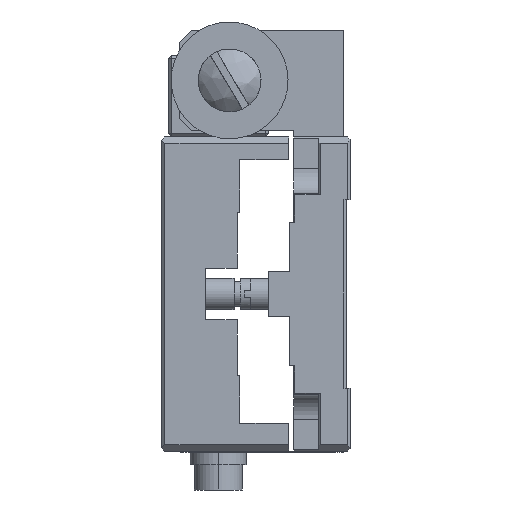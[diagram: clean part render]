
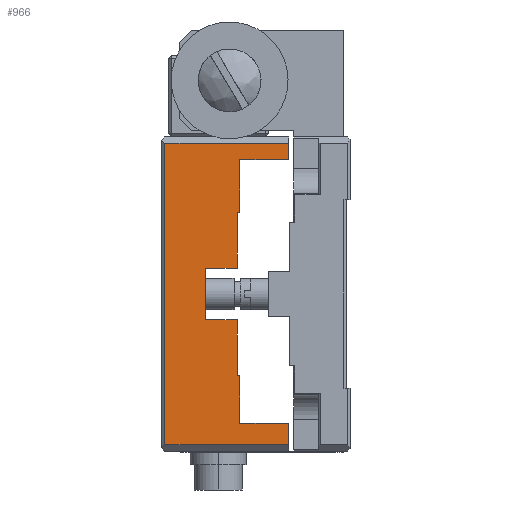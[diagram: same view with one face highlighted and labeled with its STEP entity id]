
A CAD part, left-side view. The second image highlights one B-rep face of the part: STEP entity #966.
In plain terms, the highlighted planar face has unit normal (-1, 0, 0).
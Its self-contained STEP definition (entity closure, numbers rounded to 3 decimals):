
#966 = ADVANCED_FACE ( 'NONE', ( #17363 ), #8422, .F. ) ;
#1671 = EDGE_CURVE ( 'NONE', #8732, #8609, #10032, .T. ) ;
#1700 = EDGE_CURVE ( 'NONE', #6157, #6163, #10072, .T. ) ;
#1713 = EDGE_CURVE ( 'NONE', #6152, #8609, #10096, .T. ) ;
#1734 = EDGE_CURVE ( 'NONE', #6156, #6151, #10127, .T. ) ;
#1774 = EDGE_CURVE ( 'NONE', #6210, #6156, #10187, .T. ) ;
#1778 = EDGE_CURVE ( 'NONE', #6149, #6153, #10193, .T. ) ;
#1785 = EDGE_CURVE ( 'NONE', #17716, #6157, #10203, .T. ) ;
#1791 = EDGE_CURVE ( 'NONE', #6163, #6149, #10210, .T. ) ;
#1815 = EDGE_CURVE ( 'NONE', #6153, #6152, #10247, .T. ) ;
#1838 = EDGE_CURVE ( 'NONE', #6151, #6207, #10280, .T. ) ;
#1842 = EDGE_CURVE ( 'NONE', #6244, #6158, #10286, .T. ) ;
#1843 = EDGE_CURVE ( 'NONE', #6207, #6252, #10289, .T. ) ;
#1869 = EDGE_CURVE ( 'NONE', #6150, #6210, #10327, .T. ) ;
#1878 = EDGE_CURVE ( 'NONE', #6158, #8732, #10344, .T. ) ;
#3155 = EDGE_LOOP ( 'NONE', ( #9909, #9910, #9911, #9912, #9913, #9914, #9915, #9916, #9917, #9918, #9919, #9920, #9921, #9922, #9923, #9924 ) ) ;
#4526 = CARTESIAN_POINT ( 'NONE',  ( -19.047, 4.516, 2.05 ) ) ;
#4527 = DIRECTION ( 'NONE',  ( 0., 0., -1. ) ) ;
#5161 = CARTESIAN_POINT ( 'NONE',  ( -19.047, 4.516, -2.05 ) ) ;
#6149 = VERTEX_POINT ( 'NONE', #16273 ) ;
#6150 = VERTEX_POINT ( 'NONE', #16274 ) ;
#6151 = VERTEX_POINT ( 'NONE', #16275 ) ;
#6152 = VERTEX_POINT ( 'NONE', #16276 ) ;
#6153 = VERTEX_POINT ( 'NONE', #16277 ) ;
#6156 = VERTEX_POINT ( 'NONE', #16280 ) ;
#6157 = VERTEX_POINT ( 'NONE', #16281 ) ;
#6158 = VERTEX_POINT ( 'NONE', #16282 ) ;
#6163 = VERTEX_POINT ( 'NONE', #16287 ) ;
#6207 = VERTEX_POINT ( 'NONE', #16331 ) ;
#6210 = VERTEX_POINT ( 'NONE', #16334 ) ;
#6244 = VERTEX_POINT ( 'NONE', #16368 ) ;
#6252 = VERTEX_POINT ( 'NONE', #16376 ) ;
#8420 = CARTESIAN_POINT ( 'NONE',  ( -19.047, -2.084, 0. ) ) ;
#8422 = PLANE ( 'NONE',  #14862 ) ;
#8424 = DIRECTION ( 'NONE',  ( 1., 0., 0. ) ) ;
#8425 = DIRECTION ( 'NONE',  ( 0., 0., -1. ) ) ;
#8609 = VERTEX_POINT ( 'NONE', #16753 ) ;
#8732 = VERTEX_POINT ( 'NONE', #20668 ) ;
#9183 = EDGE_CURVE ( 'NONE', #6244, #6150, #12888, .T. ) ;
#9305 = EDGE_CURVE ( 'NONE', #6252, #17716, #13076, .T. ) ;
#9909 = ORIENTED_EDGE ( 'NONE', *, *, #1842, .T. ) ;
#9910 = ORIENTED_EDGE ( 'NONE', *, *, #1878, .T. ) ;
#9911 = ORIENTED_EDGE ( 'NONE', *, *, #1671, .T. ) ;
#9912 = ORIENTED_EDGE ( 'NONE', *, *, #1713, .F. ) ;
#9913 = ORIENTED_EDGE ( 'NONE', *, *, #1815, .F. ) ;
#9914 = ORIENTED_EDGE ( 'NONE', *, *, #1778, .F. ) ;
#9915 = ORIENTED_EDGE ( 'NONE', *, *, #1791, .F. ) ;
#9916 = ORIENTED_EDGE ( 'NONE', *, *, #1700, .F. ) ;
#9917 = ORIENTED_EDGE ( 'NONE', *, *, #1785, .F. ) ;
#9918 = ORIENTED_EDGE ( 'NONE', *, *, #9305, .F. ) ;
#9919 = ORIENTED_EDGE ( 'NONE', *, *, #1843, .F. ) ;
#9920 = ORIENTED_EDGE ( 'NONE', *, *, #1838, .F. ) ;
#9921 = ORIENTED_EDGE ( 'NONE', *, *, #1734, .F. ) ;
#9922 = ORIENTED_EDGE ( 'NONE', *, *, #1774, .F. ) ;
#9923 = ORIENTED_EDGE ( 'NONE', *, *, #1869, .F. ) ;
#9924 = ORIENTED_EDGE ( 'NONE', *, *, #9183, .F. ) ;
#10032 = LINE ( 'NONE', #17803, #10035 ) ;
#10035 = VECTOR ( 'NONE', #17804, 1000. ) ;
#10072 = LINE ( 'NONE', #17870, #10075 ) ;
#10075 = VECTOR ( 'NONE', #17878, 1000. ) ;
#10096 = LINE ( 'NONE', #17900, #10101 ) ;
#10101 = VECTOR ( 'NONE', #17907, 1000. ) ;
#10127 = LINE ( 'NONE', #17971, #10131 ) ;
#10131 = VECTOR ( 'NONE', #17974, 1000. ) ;
#10187 = LINE ( 'NONE', #18093, #10190 ) ;
#10190 = VECTOR ( 'NONE', #18094, 1000. ) ;
#10193 = LINE ( 'NONE', #18101, #10196 ) ;
#10196 = VECTOR ( 'NONE', #18097, 1000. ) ;
#10203 = LINE ( 'NONE', #18134, #10204 ) ;
#10204 = VECTOR ( 'NONE', #18135, 1000. ) ;
#10210 = LINE ( 'NONE', #18144, #10213 ) ;
#10213 = VECTOR ( 'NONE', #18150, 1000. ) ;
#10247 = LINE ( 'NONE', #18192, #10249 ) ;
#10249 = VECTOR ( 'NONE', #18202, 1000. ) ;
#10280 = LINE ( 'NONE', #18265, #10283 ) ;
#10283 = VECTOR ( 'NONE', #18254, 1000. ) ;
#10286 = LINE ( 'NONE', #18274, #10290 ) ;
#10289 = LINE ( 'NONE', #18278, #10292 ) ;
#10290 = VECTOR ( 'NONE', #18272, 1000. ) ;
#10292 = VECTOR ( 'NONE', #18279, 1000. ) ;
#10327 = LINE ( 'NONE', #18331, #10334 ) ;
#10334 = VECTOR ( 'NONE', #18341, 1000. ) ;
#10344 = LINE ( 'NONE', #18361, #10347 ) ;
#10347 = VECTOR ( 'NONE', #18342, 1000. ) ;
#12888 = LINE ( 'NONE', #21493, #12891 ) ;
#12891 = VECTOR ( 'NONE', #21495, 1000. ) ;
#13076 = LINE ( 'NONE', #4526, #13079 ) ;
#13079 = VECTOR ( 'NONE', #4527, 1000. ) ;
#14862 = AXIS2_PLACEMENT_3D ( 'NONE', #8420, #8424, #8425 ) ;
#16273 = CARTESIAN_POINT ( 'NONE',  ( -19.047, 1.816, -6.5 ) ) ;
#16274 = CARTESIAN_POINT ( 'NONE',  ( -19.047, -2.084, 10.7 ) ) ;
#16275 = CARTESIAN_POINT ( 'NONE',  ( -19.047, 2.016, 6.5 ) ) ;
#16276 = CARTESIAN_POINT ( 'NONE',  ( -19.047, -2.084, -10.3 ) ) ;
#16277 = CARTESIAN_POINT ( 'NONE',  ( -19.047, 1.816, -10.3 ) ) ;
#16280 = CARTESIAN_POINT ( 'NONE',  ( -19.047, 1.816, 6.5 ) ) ;
#16281 = CARTESIAN_POINT ( 'NONE',  ( -19.047, 2.016, -2.05 ) ) ;
#16282 = CARTESIAN_POINT ( 'NONE',  ( -19.047, 7.766, 12. ) ) ;
#16287 = CARTESIAN_POINT ( 'NONE',  ( -19.047, 2.016, -6.5 ) ) ;
#16331 = CARTESIAN_POINT ( 'NONE',  ( -19.047, 2.016, 2.05 ) ) ;
#16334 = CARTESIAN_POINT ( 'NONE',  ( -19.047, 1.816, 10.7 ) ) ;
#16368 = CARTESIAN_POINT ( 'NONE',  ( -19.047, -2.084, 12. ) ) ;
#16376 = CARTESIAN_POINT ( 'NONE',  ( -19.047, 4.516, 2.05 ) ) ;
#16753 = CARTESIAN_POINT ( 'NONE',  ( -19.047, -2.084, -12. ) ) ;
#17363 = FACE_OUTER_BOUND ( 'NONE', #3155, .T. ) ;
#17716 = VERTEX_POINT ( 'NONE', #5161 ) ;
#17803 = CARTESIAN_POINT ( 'NONE',  ( -19.047, -2.084, -12. ) ) ;
#17804 = DIRECTION ( 'NONE',  ( 0., -1., 0. ) ) ;
#17870 = CARTESIAN_POINT ( 'NONE',  ( -19.047, 2.016, -2.05 ) ) ;
#17878 = DIRECTION ( 'NONE',  ( 0., 0., -1. ) ) ;
#17900 = CARTESIAN_POINT ( 'NONE',  ( -19.047, -2.084, -10.3 ) ) ;
#17907 = DIRECTION ( 'NONE',  ( 0., 0., -1. ) ) ;
#17971 = CARTESIAN_POINT ( 'NONE',  ( -19.047, 1.816, 6.5 ) ) ;
#17974 = DIRECTION ( 'NONE',  ( 0., 1., 0. ) ) ;
#18093 = CARTESIAN_POINT ( 'NONE',  ( -19.047, 1.816, 10.7 ) ) ;
#18094 = DIRECTION ( 'NONE',  ( 0., 0., -1. ) ) ;
#18097 = DIRECTION ( 'NONE',  ( 0., 0., -1. ) ) ;
#18101 = CARTESIAN_POINT ( 'NONE',  ( -19.047, 1.816, -6.5 ) ) ;
#18134 = CARTESIAN_POINT ( 'NONE',  ( -19.047, 4.516, -2.05 ) ) ;
#18135 = DIRECTION ( 'NONE',  ( 0., -1., 0. ) ) ;
#18144 = CARTESIAN_POINT ( 'NONE',  ( -19.047, 2.016, -6.5 ) ) ;
#18150 = DIRECTION ( 'NONE',  ( 0., -1., 0. ) ) ;
#18192 = CARTESIAN_POINT ( 'NONE',  ( -19.047, 1.816, -10.3 ) ) ;
#18202 = DIRECTION ( 'NONE',  ( 0., -1., 0. ) ) ;
#18254 = DIRECTION ( 'NONE',  ( 0., 0., -1. ) ) ;
#18265 = CARTESIAN_POINT ( 'NONE',  ( -19.047, 2.016, 6.5 ) ) ;
#18272 = DIRECTION ( 'NONE',  ( 0., 1., 0. ) ) ;
#18274 = CARTESIAN_POINT ( 'NONE',  ( -19.047, -2.084, 12. ) ) ;
#18278 = CARTESIAN_POINT ( 'NONE',  ( -19.047, 2.016, 2.05 ) ) ;
#18279 = DIRECTION ( 'NONE',  ( 0., 1., 0. ) ) ;
#18331 = CARTESIAN_POINT ( 'NONE',  ( -19.047, -2.084, 10.7 ) ) ;
#18341 = DIRECTION ( 'NONE',  ( 0., 1., 0. ) ) ;
#18342 = DIRECTION ( 'NONE',  ( 0., 0., -1. ) ) ;
#18361 = CARTESIAN_POINT ( 'NONE',  ( -19.047, 7.766, 0. ) ) ;
#20668 = CARTESIAN_POINT ( 'NONE',  ( -19.047, 7.766, -12. ) ) ;
#21493 = CARTESIAN_POINT ( 'NONE',  ( -19.047, -2.084, 12.5 ) ) ;
#21495 = DIRECTION ( 'NONE',  ( 0., 0., -1. ) ) ;
